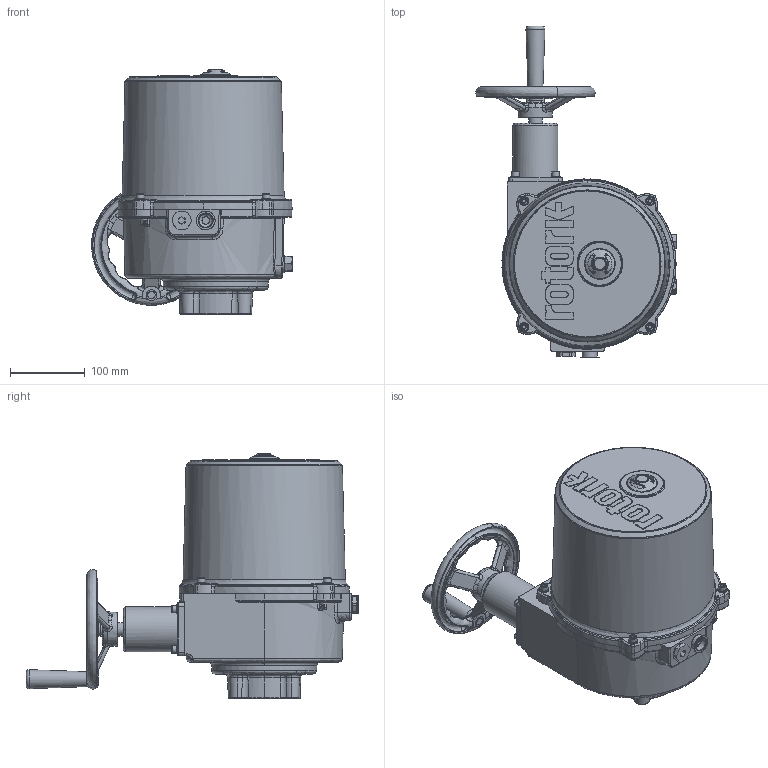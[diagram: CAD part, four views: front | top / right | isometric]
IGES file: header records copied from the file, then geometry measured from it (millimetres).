
Start section: C
Global section: file name: ROM_sizes_4_5_6_with_torque_limit_switches-3.igs; native system: By Siemens PLM Incorporated; preprocessor: XPlus GENERIC/IGES 18.0.17; author: Author; organization: Title; date: 20170110.171211; units: millimetre
Bounding box: 267.82 x 443.26 x 327 mm (x, y, z)
Surface area: 473600.6 mm2 (no closed solid volume)
Topology: 0 solids, 0 shells, 1684 faces, 8836 edges, 8806 vertices
Faces by surface type: bspline 1684
